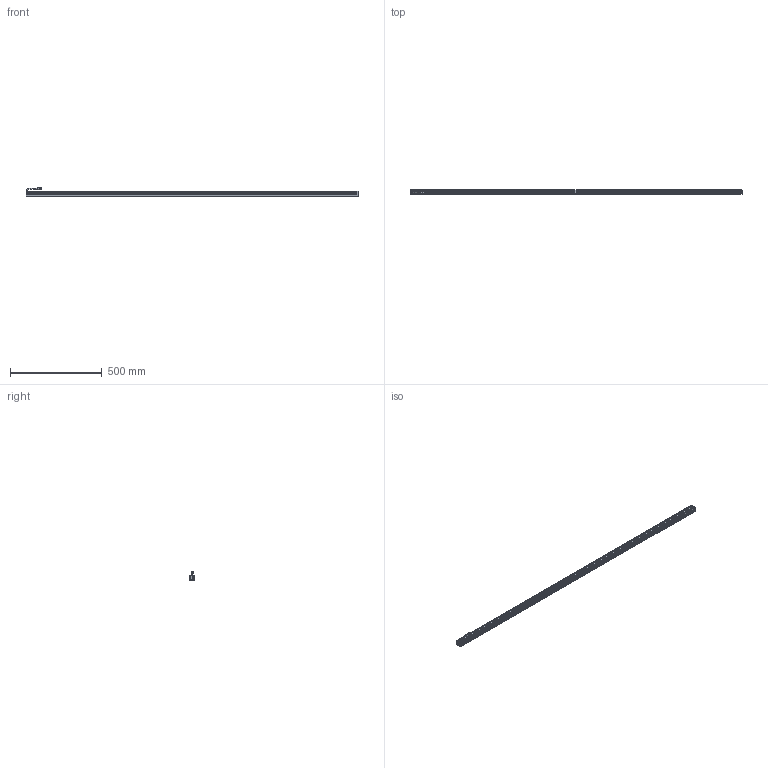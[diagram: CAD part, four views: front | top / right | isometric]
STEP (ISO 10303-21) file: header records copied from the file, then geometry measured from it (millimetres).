
FILE_DESCRIPTION (( 'STEP AP203' ), '1' );
FILE_NAME ('CK-BL181228.STEP', '2026-01-03T02:10:56', ( '' ), ( '' ), 'SwSTEP 2.0', 'SolidWorks 2022', '' );
FILE_SCHEMA (( 'CONFIG_CONTROL_DESIGN' ));
Length unit declared in the file: millimetre
Products named in the file (6): 十字沉头螺丝 M2x10; CK-BL181228-002A; CK-BL181228; 光源线-01; CK-BL181228-001A; CK-BL181228-003A
Assembly tree (11 placements, depth 2):
  CK-BL181228
    CK-BL181228-001A
    CK-BL181228-002A  x2
    CK-BL181228-003A
    光源线-01
    十字沉头螺丝 M2x10  x6
Bounding box: 1812 x 27 x 47.34 mm (x, y, z)
Volume: 574312.5 mm3; surface area: 502090.9 mm2
Topology: 13 solids, 13 shells, 575 faces, 1494 edges, 950 vertices
Faces by surface type: plane 337, cylinder 172, cone 46, bspline 20
Entity records: 13997 total; most frequent: CARTESIAN_POINT 2782, ORIENTED_EDGE 2202, DIRECTION 2163, EDGE_CURVE 1101, LINE 781, VECTOR 781, VERTEX_POINT 714, AXIS2_PLACEMENT_3D 691
